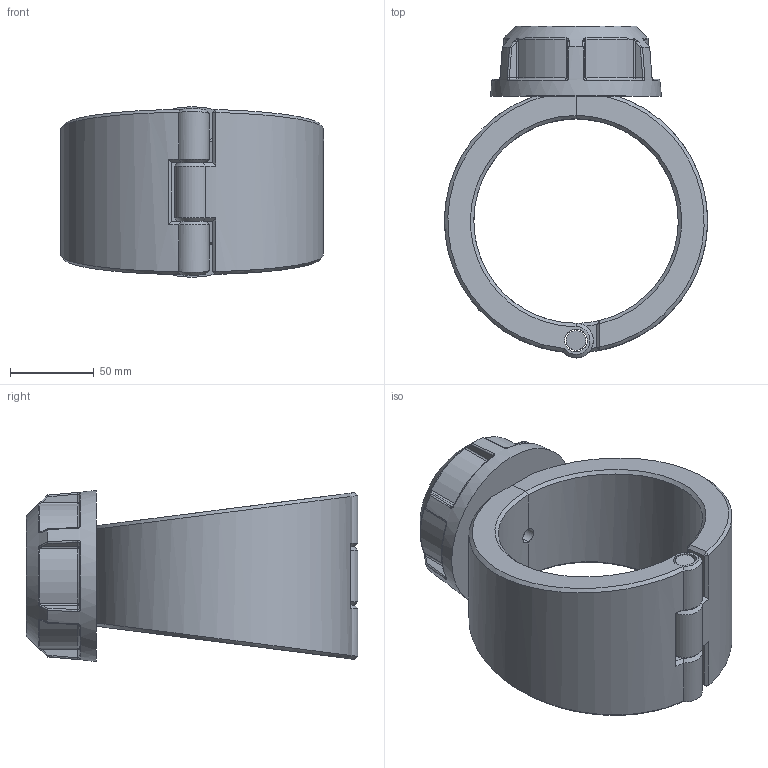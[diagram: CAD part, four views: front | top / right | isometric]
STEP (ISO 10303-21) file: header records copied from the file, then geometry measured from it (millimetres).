
FILE_DESCRIPTION(/* description */ ('Plassadle Threaded 122x1/2'''''),/* implementation_level */ '2;1');
FILE_NAME(/* name */ 'C:\Users\comp2\Dropbox\99-16-3568-Processing\Mechanical Fittings\16300\stp\163000122005.stp',/* time_stamp */ '2022-02-03T11:48:12+00:00',/* author */ ('comp2'),/* organization */ (''),/* preprocessor_version */ 'ST-DEVELOPER v17.2',/* originating_system */ 'Autodesk Inventor 2019',/* authorisation */ '');
FILE_SCHEMA (('AUTOMOTIVE_DESIGN { 1 0 10303 214 3 1 1 }'));
Length unit declared in the file: millimetre
Products named in the file (1): 163000122005
Bounding box: 156.98 x 198 x 102 mm (x, y, z)
Volume: 845587.8 mm3; surface area: 124308.6 mm2
Topology: 4 solids, 4 shells, 203 faces, 486 edges, 293 vertices
Faces by surface type: bspline 58, plane 53, cylinder 47, torus 18, cone 15, sphere 12
Full cylindrical faces by diameter (mm): 9.316 x1, 11.64 x1, 13.64 x3, 15.836 x1, 18.631 x1, 27.947 x1
Entity records: 8238 total; most frequent: CARTESIAN_POINT 3891, ORIENTED_EDGE 972, DIRECTION 781, EDGE_CURVE 486, AXIS2_PLACEMENT_3D 330, VERTEX_POINT 293, EDGE_LOOP 213, FACE_OUTER_BOUND 203
